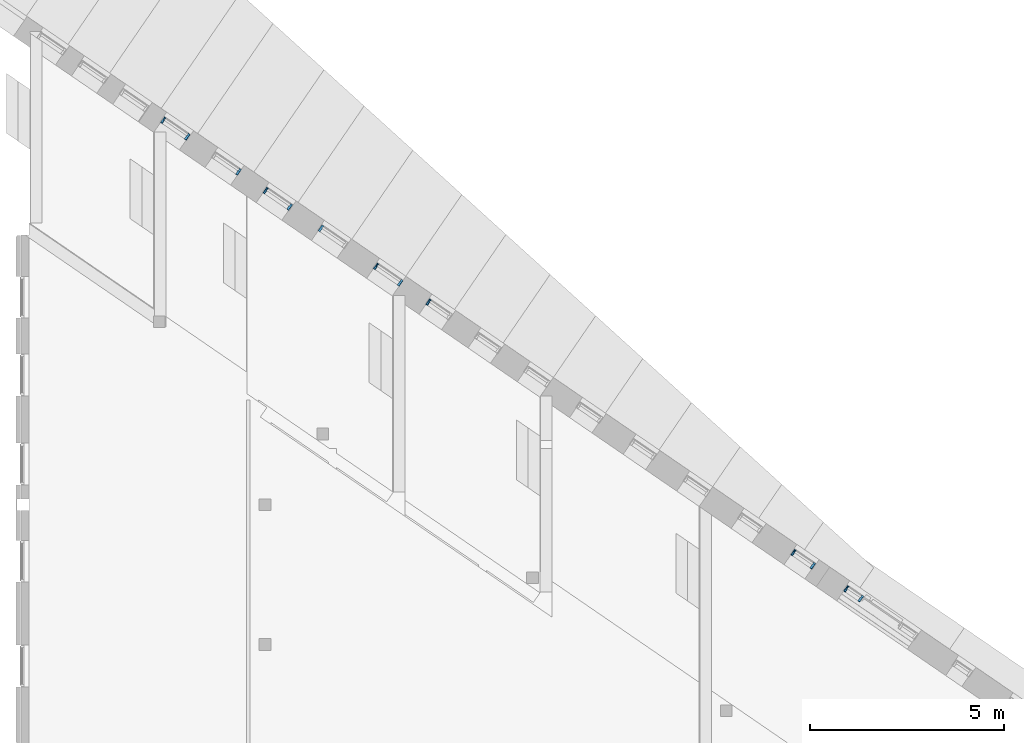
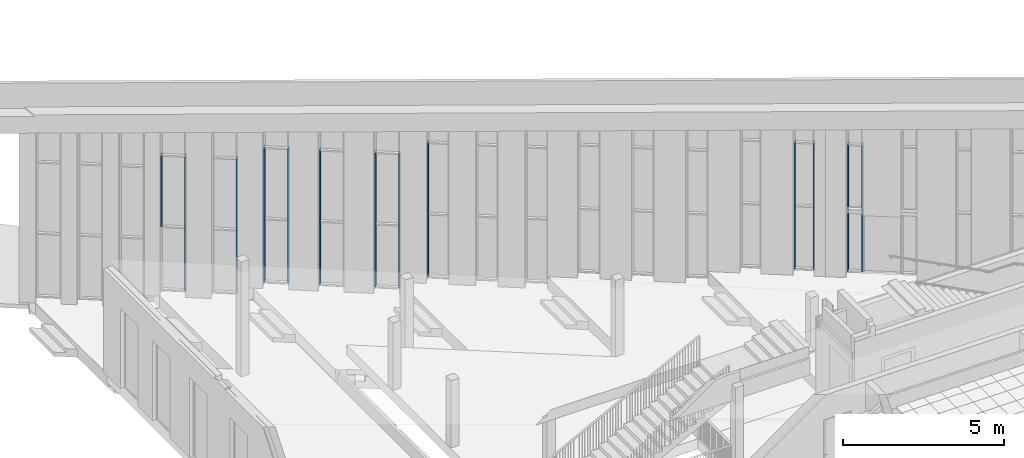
# One storey, part 13 of 79: 25 members, 8 elements without a shape of their own.
"""IFC2X3 building model written with IfcOpenShell, lengths in millimetres."""

import ifcopenshell
import ifcopenshell.guid

model = None  # the IFC model being written
_history = None  # IfcOwnerHistory: only IFC2X3 demands one
_inside = {}  # id of a spatial element -> (the spatial element, [elements in it])
_under = {}  # id of a project, library or spatial element -> (it, [spatial elements below it])
_declared = {}  # id of a project -> (the project, [libraries it declares])
_typed = {}  # id of a type object -> (the type object, [elements of that type])
_made_of = {}  # id of a material, layer set ... -> (it, [elements and type objects made of it])


def new_model(schema):
    """Start an empty IFC model of exactly this schema.

    Asked for "IFC4X3", IfcOpenShell would pick the latest addendum, in which some entities
    have other attributes; the version numbers below select the first issue.
    IFC2X3 requires an IfcOwnerHistory on every rooted entity: one is made here for all.
    """
    global model, _history
    if schema == "IFC4X3":
        model = ifcopenshell.file(schema_version=(4, 3, 0, 0))
    else:
        model = ifcopenshell.file(schema=schema)
    _inside.clear()
    _under.clear()
    _declared.clear()
    _typed.clear()
    _made_of.clear()
    _history = None
    if model.schema == "IFC2X3":
        org = make("IfcOrganization", Name="unknown")
        user = make(
            "IfcPersonAndOrganization",
            ThePerson=make("IfcPerson", FamilyName="unknown"),
            TheOrganization=org,
        )
        app = make(
            "IfcApplication",
            ApplicationDeveloper=org,
            Version="unknown",
            ApplicationFullName="unknown",
            ApplicationIdentifier="unknown",
        )
        _history = make(
            "IfcOwnerHistory",
            OwningUser=user,
            OwningApplication=app,
            ChangeAction="ADDED",
            CreationDate=0,
        )
    return model


def make(cls, **values):
    """One entity of the class cls with the attributes given. An attribute that is None is left unset."""
    return model.create_entity(
        cls, **{name: value for name, value in values.items() if value is not None}
    )


def entity(cls, *values):
    """Any entity or typed value of the class cls, its attributes in the order of the schema. None: left unset."""
    e = model.create_entity(cls)
    for i, value in enumerate(values):
        if value is not None:
            e[i] = value
    return e


def rooted(cls, **values):
    """An entity with a GlobalId (a new one), such as an element, a storey or a relation."""
    return make(cls, GlobalId=ifcopenshell.guid.new(), OwnerHistory=_history, **values)


def si_unit(unit_type, name, prefix=None):
    """IfcSIUnit, for example si_unit("LENGTHUNIT", "METRE", prefix="MILLI")."""
    return make("IfcSIUnit", UnitType=unit_type, Prefix=prefix, Name=name)


def converted_unit(unit_type, name, factor, base, dimensions=None, offset=None):
    """IfcConversionBasedUnit, such as the inch: factor (a typed value) times the base unit."""
    return make(
        "IfcConversionBasedUnit"
        if offset is None
        else "IfcConversionBasedUnitWithOffset",
        ConversionOffset=offset,
        Dimensions=None
        if dimensions is None
        else entity("IfcDimensionalExponents", *dimensions),
        UnitType=unit_type,
        Name=name,
        ConversionFactor=make(
            "IfcMeasureWithUnit", ValueComponent=factor, UnitComponent=base
        ),
    )


def derived_unit(unit_type, elements):
    """IfcDerivedUnit: a product of units, each with its exponent."""
    return make(
        "IfcDerivedUnit",
        Elements=[
            make("IfcDerivedUnitElement", Unit=unit, Exponent=power)
            for unit, power in elements
        ],
        UnitType=unit_type,
    )


def money_unit(currency):
    """IfcMonetaryUnit."""
    return make("IfcMonetaryUnit", Currency=currency)


def assignment(units):
    """IfcUnitAssignment: the units of a project."""
    return None if units is None else make("IfcUnitAssignment", Units=units)


def point(xyz):
    """IfcCartesianPoint."""
    return None if xyz is None else make("IfcCartesianPoint", Coordinates=xyz)


def direction(xyz):
    """IfcDirection."""
    return None if xyz is None else make("IfcDirection", DirectionRatios=xyz)


def frame(location, z_axis=None, x_axis=None):
    """IfcAxis2Placement3D, a coordinate frame: its origin and axes. An axis left out is left unset."""
    return make(
        "IfcAxis2Placement3D",
        Location=point(location),
        Axis=direction(z_axis),
        RefDirection=direction(x_axis),
    )


def origin_with_axes():
    """The frame at (0, 0, 0) with the z axis (0, 0, 1) and the x axis (1, 0, 0) written out."""
    return frame((0.0, 0.0, 0.0), z_axis=(0.0, 0.0, 1.0), x_axis=(1.0, 0.0, 0.0))


def place(relative_to, where):
    """IfcLocalPlacement: puts the frame where relative to a parent placement (None: the world)."""
    return make(
        "IfcLocalPlacement", PlacementRelTo=relative_to, RelativePlacement=where
    )


def context(
    kind, dimensions, precision=None, world=None, true_north=None, identifier=None
):
    """IfcGeometricRepresentationContext, for example the 3D "Model" context."""
    return make(
        "IfcGeometricRepresentationContext",
        ContextIdentifier=identifier,
        ContextType=kind,
        CoordinateSpaceDimension=dimensions,
        Precision=precision,
        WorldCoordinateSystem=world,
        TrueNorth=true_north,
    )


def subcontext(parent, identifier, kind, view, scale=None):
    """IfcGeometricRepresentationSubContext, for example "Body" below "Model"."""
    return make(
        "IfcGeometricRepresentationSubContext",
        ContextIdentifier=identifier,
        ContextType=kind,
        ParentContext=parent,
        TargetScale=scale,
        TargetView=view,
    )


def project(units=None, contexts=None):
    """IfcProject with its units and contexts."""
    return rooted(
        "IfcProject",
        Name="project",
        RepresentationContexts=contexts,
        UnitsInContext=assignment(units),
    )


def spatial(cls, under=None, at=None, **own):
    """A site, building, storey or space (cls), placed at a placement, below another one or the project."""
    s = rooted(cls, ObjectPlacement=at, **own)
    if under is not None:
        _under.setdefault(under.id(), (under, []))[1].append(s)
    return s


def faces_of(points, faces, orient=None, outer=None):
    """IfcFace entities. A face is a list of loops; a loop is a list of indices into points, from 0.

    orient and outer hold one flag for each loop. By default every Orientation is true, the
    first loop of a face is its IfcFaceOuterBound and the others are IfcFaceBound.
    """
    made = []
    for i, loops in enumerate(faces):
        bounds = []
        for j, loop in enumerate(loops):
            is_outer = j == 0 if outer is None else outer[i][j]
            bounds.append(
                make(
                    "IfcFaceOuterBound" if is_outer else "IfcFaceBound",
                    Bound=make("IfcPolyLoop", Polygon=[points[k] for k in loop]),
                    Orientation=True if orient is None else orient[i][j],
                )
            )
        made.append(make("IfcFace", Bounds=bounds))
    return made


def faceted_brep(points, faces, orient=None, outer=None, voids=None):
    """IfcFacetedBrep: a solid bounded by flat faces; with voids (closed shells), ...WithVoids."""
    shared = [point(p) for p in points]
    hull = make("IfcClosedShell", CfsFaces=faces_of(shared, faces, orient, outer))
    if voids is None:
        return make("IfcFacetedBrep", Outer=hull)
    return make(
        "IfcFacetedBrepWithVoids",
        Outer=hull,
        Voids=[
            make(cls, CfsFaces=faces_of(shared, fs, o, b)) for cls, fs, o, b in voids
        ],
    )


def shape(context_of_items, identifier, shape_type, items):
    """IfcShapeRepresentation: the items that make up one representation, for example the "Body"."""
    return make(
        "IfcShapeRepresentation",
        ContextOfItems=context_of_items,
        RepresentationIdentifier=identifier,
        RepresentationType=shape_type,
        Items=items,
    )


def source(mapping_origin, context_of_items, identifier, shape_type, items):
    """IfcRepresentationMap: a shape defined once, which mapped items show again and again."""
    return make(
        "IfcRepresentationMap",
        MappingOrigin=mapping_origin,
        MappedRepresentation=shape(context_of_items, identifier, shape_type, items),
    )


def transform(
    local_origin,
    x_axis=None,
    y_axis=None,
    z_axis=None,
    scale=None,
    scale2=None,
    scale3=None,
    uniform=True,
):
    """IfcCartesianTransformationOperator3D, or its non-uniform kind. x_axis, y_axis, z_axis: its Axis1, 2, 3."""
    if uniform:
        return make(
            "IfcCartesianTransformationOperator3D",
            Axis1=direction(x_axis),
            Axis2=direction(y_axis),
            LocalOrigin=point(local_origin),
            Scale=scale,
            Axis3=direction(z_axis),
        )
    return make(
        "IfcCartesianTransformationOperator3DnonUniform",
        Axis1=direction(x_axis),
        Axis2=direction(y_axis),
        LocalOrigin=point(local_origin),
        Scale=scale,
        Axis3=direction(z_axis),
        Scale2=scale2,
        Scale3=scale3,
    )


def mapped(mapping_source, mapping_target):
    """IfcMappedItem: shows the shape of a source again, moved by a transform."""
    return make(
        "IfcMappedItem", MappingSource=mapping_source, MappingTarget=mapping_target
    )


def material(Name=None, Category=None):
    """IfcMaterial."""
    return make("IfcMaterial", Name=Name, Category=Category)


def made_of(thing, what):
    """Note that an element or type object is made of a material, layer set ...; save() writes the relation."""
    if what is not None:
        _made_of.setdefault(what.id(), (what, []))[1].append(thing)
    return thing


def type_object(cls, material=None, **own):
    """A type object (cls), such as IfcWallType, which elements share."""
    return made_of(rooted(cls, **own), material)


def element(
    cls,
    number,
    at=None,
    inside=None,
    cuts=None,
    type_object=None,
    material=None,
    context=None,
    identifier="Body",
    shape_type=None,
    held_by="IfcProductDefinitionShape",
    body=None,
    shapes=None,
    **own,
):
    """One element of the class cls, such as IfcWall. Its Tag is "e" and its number.

    at: its placement. inside: the storey or other place that contains it. cuts: it is an
    opening in that element (IfcRelVoidsElement). A single representation is given by context,
    identifier, shape_type and body (its items); several are given by shapes. held_by: the class
    of the entity that holds the representations. save() writes the other relations.
    """
    e = rooted(cls, Tag="e%d" % number, ObjectPlacement=at, **own)
    if body is not None:
        shapes = [shape(context, identifier, shape_type, body)]
    if shapes is not None:
        e.Representation = make(held_by, Representations=shapes)
    if inside is not None:
        _inside.setdefault(inside.id(), (inside, []))[1].append(e)
    if cuts is not None:
        rooted(
            "IfcRelVoidsElement", RelatingBuildingElement=cuts, RelatedOpeningElement=e
        )
    if type_object is not None:
        _typed.setdefault(type_object.id(), (type_object, []))[1].append(e)
    return made_of(e, material)


def aggregate(whole, parts):
    """IfcRelAggregates: a whole, such as a stair, and the parts it consists of."""
    return rooted("IfcRelAggregates", RelatingObject=whole, RelatedObjects=parts)


def save(model, path):
    """Write the relations noted so far, then the file.

    IfcRelAggregates (storeys below a building ...), IfcRelContainedInSpatialStructure (elements
    in a storey), IfcRelDefinesByType, IfcRelAssociatesMaterial and IfcRelDeclares: one each for
    every whole, place, type object, material and project.
    """
    for whole, parts in _under.values():
        aggregate(whole, parts)
    for where, things in _inside.values():
        rooted(
            "IfcRelContainedInSpatialStructure",
            RelatedElements=things,
            RelatingStructure=where,
        )
    for kind, things in _typed.values():
        rooted("IfcRelDefinesByType", RelatedObjects=things, RelatingType=kind)
    for what, things in _made_of.values():
        rooted("IfcRelAssociatesMaterial", RelatedObjects=things, RelatingMaterial=what)
    for by, libraries in _declared.values():
        rooted("IfcRelDeclares", RelatingContext=by, RelatedDefinitions=libraries)
    model.write(path)


model = new_model("IFC2X3")

# Units and contexts
model_context = context("Model", 3, precision=0.01, world=origin_with_axes(), true_north=direction((0.0, 1.0)))
body_context = subcontext(model_context, "Body", "Model", "MODEL_VIEW")
ifc_project = project(units=[si_unit("LENGTHUNIT", "METRE", prefix="MILLI"), si_unit("AREAUNIT", "SQUARE_METRE"), si_unit("VOLUMEUNIT", "CUBIC_METRE"), converted_unit("PLANEANGLEUNIT", "DEGREE", entity("IfcPlaneAngleMeasure", 0.0174532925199), si_unit("PLANEANGLEUNIT", "RADIAN"), dimensions=[0, 0, 0, 0, 0, 0, 0]), si_unit("SOLIDANGLEUNIT", "STERADIAN"), money_unit("EUR"), converted_unit("TIMEUNIT", "Year", entity("IfcTimeMeasure", 31556926.0), si_unit("TIMEUNIT", "SECOND"), dimensions=[0, 0, 1, 0, 0, 0, 0]), si_unit("MASSUNIT", "GRAM", prefix="KILO"), si_unit("THERMODYNAMICTEMPERATUREUNIT", "DEGREE_CELSIUS"), si_unit("LUMINOUSINTENSITYUNIT", "LUMEN"), si_unit("ENERGYUNIT", "JOULE", prefix="MEGA"), derived_unit("THERMALCONDUCTANCEUNIT", [(si_unit("POWERUNIT", "WATT"), 1), (si_unit("LENGTHUNIT", "METRE"), -1), (si_unit("THERMODYNAMICTEMPERATUREUNIT", "KELVIN"), -1)]), derived_unit("SPECIFICHEATCAPACITYUNIT", [(si_unit("ENERGYUNIT", "JOULE"), 1), (si_unit("MASSUNIT", "GRAM", prefix="KILO"), -1), (si_unit("THERMODYNAMICTEMPERATUREUNIT", "KELVIN"), -1)]), derived_unit("MASSDENSITYUNIT", [(si_unit("MASSUNIT", "GRAM", prefix="KILO"), 1), (si_unit("VOLUMEUNIT", "CUBIC_METRE"), -1)])], contexts=[model_context])

# Site, building, storey
site_placement = place(None, origin_with_axes())
site = spatial("IfcSite", under=ifc_project, at=site_placement, Name="L.Koidula tn 11b", CompositionType="ELEMENT")
building_placement = place(site_placement, origin_with_axes())
building = spatial("IfcBuilding", under=site, at=building_placement, Name="Rakvere Riigigümnaasium", CompositionType="ELEMENT")
storey_placement = place(building_placement, frame((0.0, 0.0, 3720.0), z_axis=(0.0, 0.0, 1.0), x_axis=(1.0, 0.0, 0.0)))
storey = spatial("IfcBuildingStorey", under=building, at=storey_placement, Name="2.korrus +3,72", CompositionType="ELEMENT", Elevation=3720.0)

# Curtain wall, members
curtain_wall_type = type_object("IfcCurtainWallType", Name="Curtain Wall Type", PredefinedType="NOTDEFINED")
curtain_wall_1_placement = place(storey_placement, frame((61972.2494244, 33972.9766299, -1395.00007094), z_axis=(0.0, 0.0, 1.0), x_axis=(1.0, 0.0, 0.0)))
curtain_wall_1 = element("IfcCurtainWall", 1, at=curtain_wall_1_placement, inside=storey, type_object=curtain_wall_type, Name="KLF-06-18")
ifc_material = material(Name="Alumiiniumprofiil (RAL 7021)")
member_type = type_object("IfcMemberType", Name="Boundary Frame 50 x 170", PredefinedType="MULLION")
shared_shape_1 = source(origin_with_axes(), body_context, "Body", "Brep", [
    faceted_brep([(-37.0, -26.0, 2700.00000012), (-50.0, -26.0, 2700.00000012), (-50.0, -124.0, 2700.00000012), (0.0, -124.0, 2700.00000012), (0.0, 46.0, 2700.00000012), (-50.0, 46.0, 2700.00000012), (-50.0, 26.0, 2700.00000012), (-37.0, 26.0, 2700.00000012), (-37.0, -26.0, -5.18836085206e-07), (-50.0, -26.0, -5.18836307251e-07), (-50.0, -124.0, -5.18836307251e-07), (0.0, -124.0, -5.18836307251e-07), (0.0, 46.0, -5.18836307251e-07), (-50.0, 46.0, -5.18836307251e-07), (-50.0, 26.0, -5.18836307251e-07), (-37.0, 26.0, -5.18836085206e-07)], [[[0, 1, 2, 3, 4, 5, 6, 7]], [[0, 8, 9, 1]], [[9, 10, 2, 1]], [[10, 11, 3, 2]], [[11, 12, 4, 3]], [[12, 13, 5, 4]], [[6, 5, 13, 14]], [[14, 15, 7, 6]], [[7, 15, 8, 0]], [[8, 15, 14, 13, 12, 11, 10, 9]]]),
])
member_1_placement = place(curtain_wall_1_placement, frame((-329.847602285, 226.234905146, 5100.00015279), z_axis=(2.9151337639e-05, -1.99942338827e-05, -0.999999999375), x_axis=(0.82466623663, -0.565619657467, 3.53492556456e-05)))
member_1 = element("IfcMember", 2, at=member_1_placement, type_object=member_type, material=ifc_material, Name="KLF-06-33-Profiilid", ObjectType="MULLION", context=body_context, shape_type="MappedRepresentation", body=[
    mapped(shared_shape_1, transform((0.0, 0.0, 0.0), x_axis=(-1.0, 0.0, 0.0), y_axis=(0.0, -1.0, 0.0), z_axis=(0.0, 0.0, 1.0))),
])
member_2_placement = place(curtain_wall_1_placement, frame((329.860065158, -226.243453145, 2400.00015279), z_axis=(4.11030893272e-08, -2.81916672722e-08, 1.0), x_axis=(-0.824666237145, 0.565619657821, 4.98420912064e-08)))
member_2 = element("IfcMember", 3, at=member_2_placement, type_object=member_type, material=ifc_material, Name="KLF-06-29-Profiilid", ObjectType="MULLION", context=body_context, shape_type="MappedRepresentation", body=[
    mapped(shared_shape_1, transform((0.0, 0.0, 0.0), x_axis=(-1.0, 0.0, 4.98420912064e-08), y_axis=(0.0, -1.0, 0.0), z_axis=(4.98420912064e-08, 0.0, 1.0))),
])

# Curtain wall, member
curtain_wall_2_placement = place(storey_placement, frame((63291.7064528, 33067.985779, -1395.00012232), z_axis=(0.0, 0.0, 1.0), x_axis=(1.0, 0.0, 0.0)))
curtain_wall_2 = element("IfcCurtainWall", 4, at=curtain_wall_2_placement, inside=storey, type_object=curtain_wall_type, Name="KLF-06-17")
member_3_placement = place(curtain_wall_2_placement, frame((329.866381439, -226.247785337, 2400.00020418), z_axis=(3.43997159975e-08, -2.35939768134e-08, 1.0), x_axis=(-0.824666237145, 0.565619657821, 4.17135014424e-08)))
member_3 = element("IfcMember", 5, at=member_3_placement, type_object=member_type, material=ifc_material, Name="KLF-06-36-Profiilid", ObjectType="MULLION", context=body_context, shape_type="MappedRepresentation", body=[
    mapped(shared_shape_1, transform((0.0, 0.0, 0.0), x_axis=(-1.0, 0.0, 4.17135014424e-08), y_axis=(0.0, -1.0, 0.0), z_axis=(4.17135014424e-08, 0.0, 1.0))),
])

# Curtain wall, members
curtain_wall_3_placement = place(storey_placement, frame((64611.1746594, 32162.9974944, -930.000096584), z_axis=(0.0, 0.0, 1.0), x_axis=(1.0, 0.0, 0.0)))
curtain_wall_3 = element("IfcCurtainWall", 6, at=curtain_wall_3_placement, inside=storey, type_object=curtain_wall_type, Name="KLF-06-16")
member_4_placement = place(curtain_wall_3_placement, frame((-329.866531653, 226.247888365, 5100.00012171), z_axis=(0.0, 0.0, -1.0), x_axis=(0.824666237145, -0.565619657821, 0.0)))
member_4 = element("IfcMember", 7, at=member_4_placement, type_object=member_type, material=ifc_material, Name="KLF-06-39-Profiilid", ObjectType="MULLION", context=body_context, shape_type="MappedRepresentation", body=[
    mapped(shared_shape_1, transform((0.0, 0.0, 0.0), x_axis=(-1.0, 0.0, 0.0), y_axis=(0.0, -1.0, 0.0), z_axis=(0.0, 0.0, 1.0))),
])
member_5_placement = place(curtain_wall_3_placement, frame((329.866489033, -226.247859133, 2400.00012171), z_axis=(1.59159151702e-08, -1.09163588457e-08, 1.0), x_axis=(-0.824666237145, 0.565619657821, 1.9299825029e-08)))
member_5 = element("IfcMember", 8, at=member_5_placement, type_object=member_type, material=ifc_material, Name="KLF-06-35-Profiilid", ObjectType="MULLION", context=body_context, shape_type="MappedRepresentation", body=[
    mapped(shared_shape_1, transform((0.0, 0.0, 0.0), x_axis=(-1.0, 0.0, 1.9299825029e-08), y_axis=(0.0, -1.0, 0.0), z_axis=(1.9299825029e-08, 0.0, 1.0))),
])

curtain_wall_4_placement = place(storey_placement, frame((67456.273164, 30211.6096842, -929.999974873), z_axis=(0.0, 0.0, 1.0), x_axis=(1.0, 0.0, 0.0)))
curtain_wall_4 = element("IfcCurtainWall", 9, at=curtain_wall_4_placement, inside=storey, type_object=curtain_wall_type, Name="KLF-06-14")
member_6_placement = place(curtain_wall_4_placement, frame((329.866358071, -226.247769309, 2400.00006484), z_axis=(3.7644412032e-08, -2.58194400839e-08, 1.0), x_axis=(-0.824666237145, 0.565619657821, 4.56480584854e-08)))
member_6 = element("IfcMember", 10, at=member_6_placement, type_object=member_type, material=ifc_material, Name="KLF-06-42-Profiilid", ObjectType="MULLION", context=body_context, shape_type="MappedRepresentation", body=[
    mapped(shared_shape_1, transform((0.0, 0.0, 0.0), x_axis=(-1.0, 0.0, 4.56480584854e-08), y_axis=(0.0, -1.0, 0.0), z_axis=(4.56480584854e-08, 0.0, 1.0))),
])
member_7_placement = place(curtain_wall_4_placement, frame((-329.866464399, 226.247842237, 5100.00006484), z_axis=(0.0, 0.0, -1.0), x_axis=(0.824666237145, -0.565619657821, 0.0)))
member_7 = element("IfcMember", 11, at=member_7_placement, type_object=member_type, material=ifc_material, Name="KLF-06-46-Profiilid", ObjectType="MULLION", context=body_context, shape_type="MappedRepresentation", body=[
    mapped(shared_shape_1, transform((0.0, 0.0, 0.0), x_axis=(-1.0, 0.0, 0.0), y_axis=(0.0, -1.0, 0.0), z_axis=(0.0, 0.0, 1.0))),
])

# Curtain wall, member
curtain_wall_5_placement = place(storey_placement, frame((68763.037451, 29315.3232528, -465.000107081), z_axis=(0.0, 0.0, 1.0), x_axis=(1.0, 0.0, 0.0)))
curtain_wall_5 = element("IfcCurtainWall", 12, at=curtain_wall_5_placement, inside=storey, type_object=curtain_wall_type, Name="KLF-06-13")
member_8_placement = place(curtain_wall_5_placement, frame((-288.633206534, 197.966896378, 5100.00017192), z_axis=(0.0, 0.0, -1.0), x_axis=(0.824666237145, -0.565619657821, 0.0)))
member_8 = element("IfcMember", 13, at=member_8_placement, type_object=member_type, material=ifc_material, Name="KLF-06-36-Profiilid", ObjectType="MULLION", context=body_context, shape_type="MappedRepresentation", body=[
    mapped(shared_shape_1, transform((0.0, 0.0, 0.0), x_axis=(-1.0, 0.0, 0.0), y_axis=(0.0, -1.0, 0.0), z_axis=(0.0, 0.0, 1.0))),
])

# Member
shared_shape_2 = source(origin_with_axes(), body_context, "Body", "Brep", [
    faceted_brep([(-37.0, -26.0, 2400.00000019), (-50.0, -26.0, 2400.00000019), (-50.0, -124.0, 2400.00000019), (0.0, -124.0, 2400.00000019), (0.0, 46.0, 2400.00000019), (-50.0, 46.0, 2400.00000019), (-50.0, 26.0, 2400.00000019), (-37.0, 26.0, 2400.00000019), (-37.0, -26.0, 37.0), (-50.0, -26.0, 50.0), (-50.0, -124.0, 50.0), (0.0, -124.0, 0.0), (0.0, 46.0, 0.0), (-50.0, 46.0, 50.0), (-50.0, 26.0, 50.0), (-37.0, 26.0, 37.0)], [[[0, 1, 2, 3, 4, 5, 6, 7]], [[0, 8, 9, 1]], [[9, 10, 2, 1]], [[2, 10, 11, 3]], [[3, 11, 12, 4]], [[4, 12, 13, 5]], [[6, 5, 13, 14]], [[14, 15, 7, 6]], [[7, 15, 8, 0]], [[8, 15, 14, 13, 12, 11, 10, 9]]]),
])
member_9_placement = place(curtain_wall_1_placement, frame((329.860065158, -226.243453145, 0.0), z_axis=(0.0, 0.0, 1.0), x_axis=(-0.824666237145, 0.565619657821, 0.0)))
member_9 = element("IfcMember", 14, at=member_9_placement, type_object=member_type, material=ifc_material, Name="KLF-06-28-Profiilid", ObjectType="MULLION", context=body_context, shape_type="MappedRepresentation", body=[
    mapped(shared_shape_2, transform((0.0, 0.0, 0.0), x_axis=(-1.0, 0.0, 0.0), y_axis=(0.0, -1.0, 0.0), z_axis=(0.0, 0.0, 1.0))),
])

aggregate(curtain_wall_1, [member_1, member_2, member_9])

member_10_placement = place(curtain_wall_2_placement, frame((329.866381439, -226.247785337, 0.0), z_axis=(0.0, 0.0, 1.0), x_axis=(-0.824666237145, 0.565619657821, 0.0)))
member_10 = element("IfcMember", 15, at=member_10_placement, type_object=member_type, material=ifc_material, Name="KLF-06-35-Profiilid", ObjectType="MULLION", context=body_context, shape_type="MappedRepresentation", body=[
    mapped(shared_shape_2, transform((0.0, 0.0, 0.0), x_axis=(-1.0, 0.0, 0.0), y_axis=(0.0, -1.0, 0.0), z_axis=(0.0, 0.0, 1.0))),
])

aggregate(curtain_wall_2, [member_3, member_10])

member_11_placement = place(curtain_wall_3_placement, frame((329.86641604, -226.247809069, 0.0), z_axis=(3.04138328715e-08, -2.08601510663e-08, 1.0), x_axis=(-0.824666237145, 0.565619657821, 3.68801726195e-08)))
member_11 = element("IfcMember", 16, at=member_11_placement, type_object=member_type, material=ifc_material, Name="KLF-06-34-Profiilid", ObjectType="MULLION", context=body_context, shape_type="MappedRepresentation", body=[
    mapped(shared_shape_2, transform((0.0, 0.0, 0.0), x_axis=(-1.0, 0.0, 3.68801726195e-08), y_axis=(0.0, -1.0, 0.0), z_axis=(3.68801726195e-08, 0.0, 1.0))),
])

member_12_placement = place(curtain_wall_4_placement, frame((329.866358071, -226.247769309, 0.0), z_axis=(0.0, 0.0, 1.0), x_axis=(-0.824666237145, 0.565619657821, 0.0)))
member_12 = element("IfcMember", 17, at=member_12_placement, type_object=member_type, material=ifc_material, Name="KLF-06-41-Profiilid", ObjectType="MULLION", context=body_context, shape_type="MappedRepresentation", body=[
    mapped(shared_shape_2, transform((0.0, 0.0, 0.0), x_axis=(-1.0, 0.0, 0.0), y_axis=(0.0, -1.0, 0.0), z_axis=(0.0, 0.0, 1.0))),
])

# Curtain wall, member
curtain_wall_6_placement = place(storey_placement, frame((78143.5902424, 22881.4219802, 465.0), z_axis=(0.0, 0.0, 1.0), x_axis=(1.0, 0.0, 0.0)))
curtain_wall_6 = element("IfcCurtainWall", 18, at=curtain_wall_6_placement, inside=storey, type_object=curtain_wall_type, Name="KLF-06-06")
member_13_placement = place(curtain_wall_6_placement, frame((268.016251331, -183.826199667, 0.0), z_axis=(8.47265997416e-08, -5.81120291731e-08, 1.0), x_axis=(-0.824666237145, 0.565619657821, 1.02740472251e-07)))
member_13 = element("IfcMember", 19, at=member_13_placement, type_object=member_type, material=ifc_material, Name="KLF-06-16-Profiilid", ObjectType="MULLION", context=body_context, shape_type="MappedRepresentation", body=[
    mapped(shared_shape_2, transform((0.0, 0.0, 0.0), x_axis=(-1.0, 0.0, 1.02740472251e-07), y_axis=(0.0, -1.0, 0.0), z_axis=(1.02740472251e-07, 0.0, 1.0))),
])

curtain_wall_7_placement = place(storey_placement, frame((79442.2672738, 21990.3699919, 464.999974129), z_axis=(0.0, 0.0, 1.0), x_axis=(1.0, 0.0, 0.0)))
curtain_wall_7 = element("IfcCurtainWall", 20, at=curtain_wall_7_placement, inside=storey, type_object=curtain_wall_type, Name="KLF-06-05")
member_14_placement = place(curtain_wall_7_placement, frame((206.16636554, -141.404781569, 0.0), z_axis=(2.86986838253e-08, -1.96837664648e-08, 1.0), x_axis=(-0.824666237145, 0.565619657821, 3.48003608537e-08)))
member_14 = element("IfcMember", 21, at=member_14_placement, type_object=member_type, material=ifc_material, Name="KLF-06-15-Profiilid", ObjectType="MULLION", context=body_context, shape_type="MappedRepresentation", body=[
    mapped(shared_shape_2, transform((0.0, 0.0, 0.0), x_axis=(-1.0, 0.0, 3.48003608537e-08), y_axis=(0.0, -1.0, 0.0), z_axis=(3.48003608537e-08, 0.0, 1.0))),
])

# Member
shared_shape_3 = source(origin_with_axes(), body_context, "Body", "Brep", [
    faceted_brep([(-37.0, -26.0, 2362.99999837), (-50.0, -26.0, 2349.99999779), (-50.0, -124.0, 2349.99999779), (0.0, -124.0, 2400.0), (0.0, 46.0, 2400.0), (-50.0, 46.0, 2349.99999779), (-50.0, 26.0, 2349.99999779), (-37.0, 26.0, 2362.99999837), (-37.0, -26.0, -1.22574839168e-07), (-50.0, -26.0, -1.22575061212e-07), (-50.0, -124.0, -1.22575061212e-07), (0.0, -124.0, -1.22575061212e-07), (0.0, 46.0, -1.22575061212e-07), (-50.0, 46.0, -1.22575061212e-07), (-50.0, 26.0, -1.22575061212e-07), (-37.0, 26.0, -1.22574839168e-07)], [[[0, 1, 2, 3, 4, 5, 6, 7]], [[0, 8, 9, 1]], [[9, 10, 2, 1]], [[10, 11, 3, 2]], [[11, 12, 4, 3]], [[12, 13, 5, 4]], [[6, 5, 13, 14]], [[14, 15, 7, 6]], [[7, 15, 8, 0]], [[8, 15, 14, 13, 12, 11, 10, 9]]]),
])
member_15_placement = place(curtain_wall_3_placement, frame((-329.866531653, 226.247888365, 2400.00012171), z_axis=(0.0, 0.0, -1.0), x_axis=(0.824666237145, -0.565619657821, 0.0)))
member_15 = element("IfcMember", 22, at=member_15_placement, type_object=member_type, material=ifc_material, Name="KLF-06-32-Profiilid", ObjectType="MULLION", context=body_context, shape_type="MappedRepresentation", body=[
    mapped(shared_shape_3, transform((0.0, 0.0, 0.0), x_axis=(-1.0, 0.0, 0.0), y_axis=(0.0, -1.0, 0.0), z_axis=(0.0, 0.0, 1.0))),
])

aggregate(curtain_wall_3, [member_4, member_15, member_5, member_11])

member_16_placement = place(curtain_wall_4_placement, frame((-329.866464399, 226.247842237, 2400.00006484), z_axis=(0.0, 0.0, -1.0), x_axis=(0.824666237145, -0.565619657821, 0.0)))
member_16 = element("IfcMember", 23, at=member_16_placement, type_object=member_type, material=ifc_material, Name="KLF-06-39-Profiilid", ObjectType="MULLION", context=body_context, shape_type="MappedRepresentation", body=[
    mapped(shared_shape_3, transform((0.0, 0.0, 0.0), x_axis=(-1.0, 0.0, 0.0), y_axis=(0.0, -1.0, 0.0), z_axis=(0.0, 0.0, 1.0))),
])

aggregate(curtain_wall_4, [member_6, member_12, member_7, member_16])

member_17_placement = place(curtain_wall_5_placement, frame((-288.633206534, 197.966896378, 2400.00017192), z_axis=(-2.95678956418e-08, 2.02799407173e-08, -1.0), x_axis=(0.824666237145, -0.565619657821, -3.58543783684e-08)))
member_17 = element("IfcMember", 24, at=member_17_placement, type_object=member_type, material=ifc_material, Name="KLF-06-29-Profiilid", ObjectType="MULLION", context=body_context, shape_type="MappedRepresentation", body=[
    mapped(shared_shape_3, transform((0.0, 0.0, 0.0), x_axis=(-1.0, 0.0, 3.58543782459e-08), y_axis=(0.0, -1.0, 0.0), z_axis=(3.58543782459e-08, 0.0, 1.0))),
])

aggregate(curtain_wall_5, [member_8, member_17])

member_18_placement = place(curtain_wall_6_placement, frame((-268.01658635, 183.826429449, 2400.00006484), z_axis=(-2.81388652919e-08, 1.92998012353e-08, -1.0), x_axis=(0.824666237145, -0.565619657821, -3.41215191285e-08)))
member_18 = element("IfcMember", 25, at=member_18_placement, type_object=member_type, material=ifc_material, Name="KLF-06-14-Profiilid", ObjectType="MULLION", context=body_context, shape_type="MappedRepresentation", body=[
    mapped(shared_shape_3, transform((0.0, 0.0, 0.0), x_axis=(-1.0, 0.0, 3.4121519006e-08), y_axis=(0.0, -1.0, 0.0), z_axis=(3.4121519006e-08, 0.0, 1.0))),
])

member_19_placement = place(curtain_wall_7_placement, frame((-206.166423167, 141.404821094, 2400.00009071), z_axis=(-2.85649241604e-08, 1.9592025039e-08, -1.0), x_axis=(0.824666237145, -0.565619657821, -3.46381630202e-08)))
member_19 = element("IfcMember", 26, at=member_19_placement, type_object=member_type, material=ifc_material, Name="KLF-06-13-Profiilid", ObjectType="MULLION", context=body_context, shape_type="MappedRepresentation", body=[
    mapped(shared_shape_3, transform((0.0, 0.0, 0.0), x_axis=(-1.0, 0.0, 3.46381628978e-08), y_axis=(0.0, -1.0, 0.0), z_axis=(3.46381628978e-08, 0.0, 1.0))),
])

shared_shape_4 = source(origin_with_axes(), body_context, "Body", "Brep", [
    faceted_brep([(-37.0, -26.0, 2400.00000087), (-50.0, -26.0, 2400.00000087), (-50.0, -124.0, 2400.00000087), (0.0, -124.0, 2400.00000087), (0.0, 46.0, 2400.00000087), (-50.0, 46.0, 2400.00000087), (-50.0, 26.0, 2400.00000087), (-37.0, 26.0, 2400.00000087), (-37.0, -26.0, -6.12986372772e-06), (-50.0, -26.0, -6.12986394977e-06), (-50.0, -124.0, -6.12986394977e-06), (0.0, -124.0, -6.12986394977e-06), (0.0, 46.0, -6.12986394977e-06), (-50.0, 46.0, -6.12986394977e-06), (-50.0, 26.0, -6.12986394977e-06), (-37.0, 26.0, -6.12986372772e-06)], [[[0, 1, 2, 3, 4, 5, 6, 7]], [[0, 8, 9, 1]], [[9, 10, 2, 1]], [[10, 11, 3, 2]], [[11, 12, 4, 3]], [[12, 13, 5, 4]], [[6, 5, 13, 14]], [[14, 15, 7, 6]], [[7, 15, 8, 0]], [[8, 15, 14, 13, 12, 11, 10, 9]]]),
])
member_20_placement = place(curtain_wall_6_placement, frame((-268.01658635, 183.826429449, 4800.00006484), z_axis=(0.0, 0.0, -1.0), x_axis=(0.824666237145, -0.565619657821, 0.0)))
member_20 = element("IfcMember", 27, at=member_20_placement, type_object=member_type, material=ifc_material, Name="KLF-06-21-Profiilid", ObjectType="MULLION", context=body_context, shape_type="MappedRepresentation", body=[
    mapped(shared_shape_4, transform((0.0, 0.0, 0.0), x_axis=(-1.0, 0.0, 0.0), y_axis=(0.0, -1.0, 0.0), z_axis=(0.0, 0.0, 1.0))),
])

member_21_placement = place(curtain_wall_6_placement, frame((268.016454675, -183.826339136, 2400.00006484), z_axis=(1.09729600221e-07, -7.52610151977e-08, 1.0), x_axis=(-0.824666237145, 0.565619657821, 1.33059406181e-07)))
member_21 = element("IfcMember", 28, at=member_21_placement, type_object=member_type, material=ifc_material, Name="KLF-06-17-Profiilid", ObjectType="MULLION", context=body_context, shape_type="MappedRepresentation", body=[
    mapped(shared_shape_4, transform((0.0, 0.0, 0.0), x_axis=(-1.0, 0.0, 1.33059406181e-07), y_axis=(0.0, -1.0, 0.0), z_axis=(1.33059406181e-07, 0.0, 1.0))),
])

aggregate(curtain_wall_6, [member_20, member_18, member_21, member_13])

member_22_placement = place(curtain_wall_7_placement, frame((-206.166423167, 141.404821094, 4800.00009071), z_axis=(0.0, 0.0, -1.0), x_axis=(0.824666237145, -0.565619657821, 0.0)))
member_22 = element("IfcMember", 29, at=member_22_placement, type_object=member_type, material=ifc_material, Name="KLF-06-20-Profiilid", ObjectType="MULLION", context=body_context, shape_type="MappedRepresentation", body=[
    mapped(shared_shape_4, transform((0.0, 0.0, 0.0), x_axis=(-1.0, 0.0, 0.0), y_axis=(0.0, -1.0, 0.0), z_axis=(0.0, 0.0, 1.0))),
])

member_23_placement = place(curtain_wall_7_placement, frame((206.166434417, -141.40482881, 2400.00009071), z_axis=(4.95026597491e-08, -3.39527413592e-08, 1.0), x_axis=(-0.824666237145, 0.565619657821, 6.00275100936e-08)))
member_23 = element("IfcMember", 30, at=member_23_placement, type_object=member_type, material=ifc_material, Name="KLF-06-16-Profiilid", ObjectType="MULLION", context=body_context, shape_type="MappedRepresentation", body=[
    mapped(shared_shape_4, transform((0.0, 0.0, 0.0), x_axis=(-1.0, 0.0, 6.00275100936e-08), y_axis=(0.0, -1.0, 0.0), z_axis=(6.00275100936e-08, 0.0, 1.0))),
])

aggregate(curtain_wall_7, [member_22, member_19, member_23, member_14])

# Curtain wall, members
curtain_wall_8_placement = place(storey_placement, frame((66033.4417184, 31187.4994723, -930.00009489), z_axis=(0.0, 0.0, 1.0), x_axis=(1.0, 0.0, 0.0)))
curtain_wall_8 = element("IfcCurtainWall", 31, at=curtain_wall_8_placement, inside=storey, type_object=curtain_wall_type, Name="KLF-06-15")
shared_shape_5 = source(origin_with_axes(), body_context, "Body", "Brep", [
    faceted_brep([(37.0, -26.0, 2400.0), (37.0, 26.0, 2400.0), (50.0, 26.0, 2400.0), (50.0, 46.0, 2400.0), (0.0, 46.0, 2400.0), (0.0, -124.0, 2400.0), (50.0, -124.0, 2400.0), (50.0, -26.0, 2400.0), (37.0, -26.0, 37.0), (37.0, 26.0, 37.0), (50.0, 26.0, 50.0), (50.0, 46.0, 50.0), (0.0, 46.0, 0.0), (0.0, -124.0, 0.0), (50.0, -124.0, 50.0), (50.0, -26.0, 50.0)], [[[0, 1, 2, 3, 4, 5, 6, 7]], [[1, 0, 8, 9]], [[10, 2, 1, 9]], [[2, 10, 11, 3]], [[4, 3, 11, 12]], [[5, 4, 12, 13]], [[6, 5, 13, 14]], [[15, 7, 6, 14]], [[0, 7, 15, 8]], [[8, 15, 14, 13, 12, 11, 10, 9]]]),
])
member_24_placement = place(curtain_wall_8_placement, frame((-329.583181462, 226.053544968, 0.0), z_axis=(0.0, 0.0, 1.0), x_axis=(-0.824666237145, 0.565619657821, 0.0)))
member_24 = element("IfcMember", 32, at=member_24_placement, type_object=member_type, material=ifc_material, Name="KLF-06-38-Profiilid", ObjectType="MULLION", context=body_context, shape_type="MappedRepresentation", body=[
    mapped(shared_shape_5, transform((0.0, 0.0, 0.0), x_axis=(-1.0, 0.0, 0.0), y_axis=(0.0, -1.0, 0.0), z_axis=(0.0, 0.0, 1.0))),
])
shared_shape_6 = source(origin_with_axes(), body_context, "Body", "Brep", [
    faceted_brep([(37.0, -26.0, 2700.0), (37.0, 26.0, 2700.0), (50.0, 26.0, 2700.0), (50.0, 46.0, 2700.0), (0.0, 46.0, 2700.0), (0.0, -124.0, 2700.0), (50.0, -124.0, 2700.0), (50.0, -26.0, 2700.0), (37.0, -26.0, 0.0), (37.0, 26.0, 0.0), (50.0, 26.0, 0.0), (50.0, 46.0, 0.0), (0.0, 46.0, 0.0), (0.0, -124.0, 0.0), (50.0, -124.0, 0.0), (50.0, -26.0, 0.0)], [[[0, 1, 2, 3, 4, 5, 6, 7]], [[1, 0, 8, 9]], [[10, 2, 1, 9]], [[2, 10, 11, 3]], [[12, 4, 3, 11]], [[13, 5, 4, 12]], [[14, 6, 5, 13]], [[15, 7, 6, 14]], [[0, 7, 15, 8]], [[8, 15, 14, 13, 12, 11, 10, 9]]]),
])
member_25_placement = place(curtain_wall_8_placement, frame((-329.583181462, 226.053544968, 2400.00018486), z_axis=(0.0, 0.0, 1.0), x_axis=(-0.824666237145, 0.565619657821, 0.0)))
member_25 = element("IfcMember", 33, at=member_25_placement, type_object=member_type, material=ifc_material, Name="KLF-06-37-Profiilid", ObjectType="MULLION", context=body_context, shape_type="MappedRepresentation", body=[
    mapped(shared_shape_6, transform((0.0, 0.0, 0.0), x_axis=(-1.0, 0.0, 0.0), y_axis=(0.0, -1.0, 0.0), z_axis=(0.0, 0.0, 1.0))),
])
aggregate(curtain_wall_8, [member_24, member_25])

save(model, "model.ifc")
